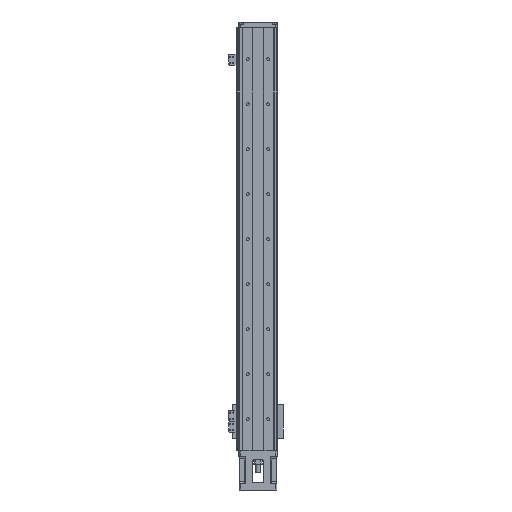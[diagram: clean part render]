
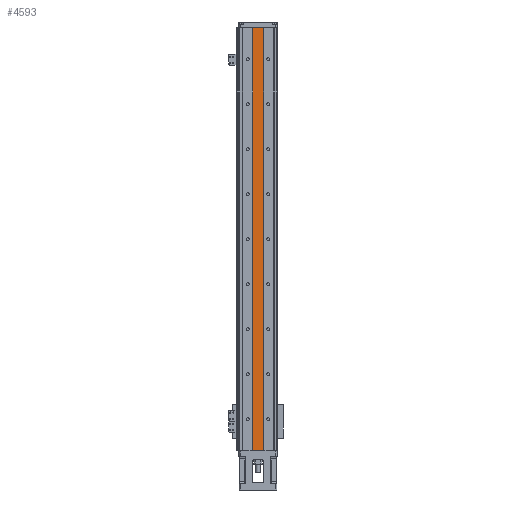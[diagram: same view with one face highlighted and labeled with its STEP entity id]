
A CAD part, front view. The second image highlights one B-rep face of the part: STEP entity #4593.
In plain terms, the highlighted planar face has unit normal (0, -1, 0).
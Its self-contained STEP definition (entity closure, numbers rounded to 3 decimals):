
#1607 = FACE_OUTER_BOUND ( 'NONE', #17050, .T. ) ;
#1663 = DIRECTION ( 'NONE',  ( -1., 0., 0. ) ) ;
#1944 = DIRECTION ( 'NONE',  ( 0., 0., 1. ) ) ;
#1986 = ORIENTED_EDGE ( 'NONE', *, *, #17188, .F. ) ;
#2218 = VECTOR ( 'NONE', #11837, 1000. ) ;
#2881 = VERTEX_POINT ( 'NONE', #6562 ) ;
#4593 = ADVANCED_FACE ( 'NONE', ( #1607 ), #11082, .F. ) ;
#4659 = EDGE_CURVE ( 'NONE', #28493, #8632, #7653, .T. ) ;
#5043 = AXIS2_PLACEMENT_3D ( 'NONE', #20110, #8482, #17860 ) ;
#6121 = LINE ( 'NONE', #23428, #2218 ) ;
#6562 = CARTESIAN_POINT ( 'NONE',  ( 11.731, -13.462, 0. ) ) ;
#7653 = LINE ( 'NONE', #24254, #14380 ) ;
#8482 = DIRECTION ( 'NONE',  ( 0., 1., 0. ) ) ;
#8632 = VERTEX_POINT ( 'NONE', #10459 ) ;
#9010 = VECTOR ( 'NONE', #1663, 1000. ) ;
#10437 = CARTESIAN_POINT ( 'NONE',  ( 11.731, -13.462, 940. ) ) ;
#10459 = CARTESIAN_POINT ( 'NONE',  ( -12.269, -13.462, 940. ) ) ;
#11082 = PLANE ( 'NONE',  #5043 ) ;
#11837 = DIRECTION ( 'NONE',  ( 1., 0., 0. ) ) ;
#12134 = EDGE_CURVE ( 'NONE', #29058, #2881, #23285, .T. ) ;
#12500 = ORIENTED_EDGE ( 'NONE', *, *, #17737, .F. ) ;
#13948 = CARTESIAN_POINT ( 'NONE',  ( 11.731, -13.462, 940. ) ) ;
#14380 = VECTOR ( 'NONE', #1944, 1000. ) ;
#15419 = CARTESIAN_POINT ( 'NONE',  ( -12.269, -13.462, 0. ) ) ;
#17050 = EDGE_LOOP ( 'NONE', ( #21327, #1986, #28741, #12500 ) ) ;
#17188 = EDGE_CURVE ( 'NONE', #2881, #28493, #22385, .T. ) ;
#17289 = VECTOR ( 'NONE', #19660, 1000. ) ;
#17737 = EDGE_CURVE ( 'NONE', #8632, #29058, #6121, .T. ) ;
#17860 = DIRECTION ( 'NONE',  ( 0., 0., 1. ) ) ;
#19660 = DIRECTION ( 'NONE',  ( 0., 0., -1. ) ) ;
#20110 = CARTESIAN_POINT ( 'NONE',  ( -12.269, -13.462, 940. ) ) ;
#21327 = ORIENTED_EDGE ( 'NONE', *, *, #4659, .F. ) ;
#22385 = LINE ( 'NONE', #15419, #9010 ) ;
#23285 = LINE ( 'NONE', #10437, #17289 ) ;
#23428 = CARTESIAN_POINT ( 'NONE',  ( -12.269, -13.462, 940. ) ) ;
#24254 = CARTESIAN_POINT ( 'NONE',  ( -12.269, -13.462, 940. ) ) ;
#25642 = CARTESIAN_POINT ( 'NONE',  ( -12.269, -13.462, 0. ) ) ;
#28493 = VERTEX_POINT ( 'NONE', #25642 ) ;
#28741 = ORIENTED_EDGE ( 'NONE', *, *, #12134, .F. ) ;
#29058 = VERTEX_POINT ( 'NONE', #13948 ) ;
